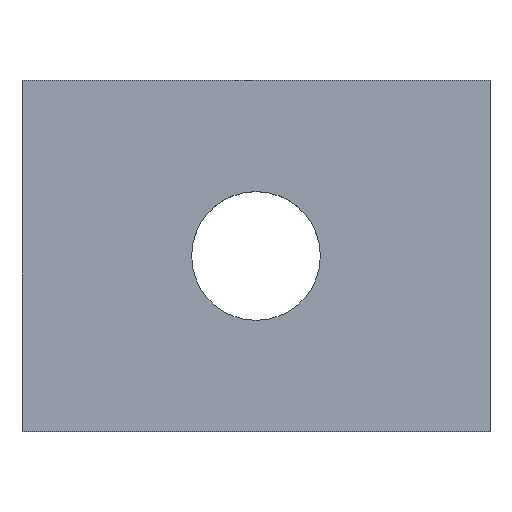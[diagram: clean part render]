
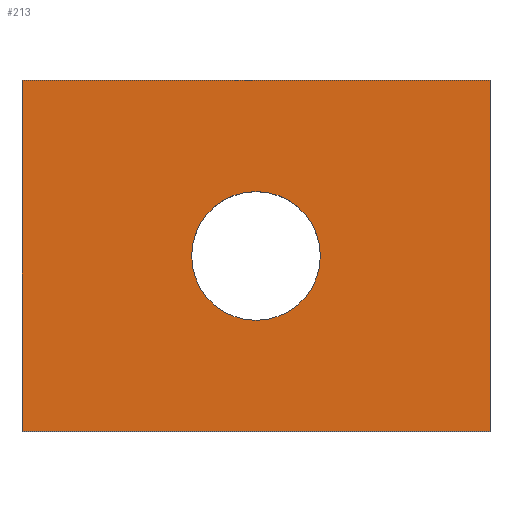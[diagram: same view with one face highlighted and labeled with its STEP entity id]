
A CAD part, top view. The second image highlights one B-rep face of the part: STEP entity #213.
In plain terms, the highlighted planar face has unit normal (0, 0, 1).
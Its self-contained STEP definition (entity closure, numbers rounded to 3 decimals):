
#24 = VERTEX_POINT('',#25);
#25 = CARTESIAN_POINT('',(-20.,-15.,2.5));
#32 = PLANE('',#33);
#33 = AXIS2_PLACEMENT_3D('',#34,#35,#36);
#34 = CARTESIAN_POINT('',(-20.,-15.,-2.5));
#35 = DIRECTION('',(1.,0.,0.));
#36 = DIRECTION('',(0.,0.,1.));
#44 = PLANE('',#45);
#45 = AXIS2_PLACEMENT_3D('',#46,#47,#48);
#46 = CARTESIAN_POINT('',(-20.,-15.,-2.5));
#47 = DIRECTION('',(0.,1.,0.));
#48 = DIRECTION('',(0.,0.,1.));
#85 = VERTEX_POINT('',#86);
#86 = CARTESIAN_POINT('',(-20.,15.,2.5));
#100 = PLANE('',#101);
#101 = AXIS2_PLACEMENT_3D('',#102,#103,#104);
#102 = CARTESIAN_POINT('',(-20.,15.,-2.5));
#103 = DIRECTION('',(0.,1.,0.));
#104 = DIRECTION('',(0.,0.,1.));
#112 = EDGE_CURVE('',#24,#85,#113,.T.);
#113 = SURFACE_CURVE('',#114,(#118,#125),.PCURVE_S1.);
#114 = LINE('',#115,#116);
#115 = CARTESIAN_POINT('',(-20.,-15.,2.5));
#116 = VECTOR('',#117,1.);
#117 = DIRECTION('',(0.,1.,0.));
#118 = PCURVE('',#32,#119);
#119 = DEFINITIONAL_REPRESENTATION('',(#120),#124);
#120 = LINE('',#121,#122);
#121 = CARTESIAN_POINT('',(5.,0.));
#122 = VECTOR('',#123,1.);
#123 = DIRECTION('',(0.,-1.));
#124 = ( GEOMETRIC_REPRESENTATION_CONTEXT(2) 
PARAMETRIC_REPRESENTATION_CONTEXT() REPRESENTATION_CONTEXT('2D SPACE',''
  ) );
#125 = PCURVE('',#126,#131);
#126 = PLANE('',#127);
#127 = AXIS2_PLACEMENT_3D('',#128,#129,#130);
#128 = CARTESIAN_POINT('',(-20.,-15.,2.5));
#129 = DIRECTION('',(0.,0.,1.));
#130 = DIRECTION('',(1.,0.,0.));
#131 = DEFINITIONAL_REPRESENTATION('',(#132),#136);
#132 = LINE('',#133,#134);
#133 = CARTESIAN_POINT('',(0.,0.));
#134 = VECTOR('',#135,1.);
#135 = DIRECTION('',(0.,1.));
#136 = ( GEOMETRIC_REPRESENTATION_CONTEXT(2) 
PARAMETRIC_REPRESENTATION_CONTEXT() REPRESENTATION_CONTEXT('2D SPACE',''
  ) );
#165 = EDGE_CURVE('',#24,#166,#168,.T.);
#166 = VERTEX_POINT('',#167);
#167 = CARTESIAN_POINT('',(20.,-15.,2.5));
#168 = SURFACE_CURVE('',#169,(#173,#180),.PCURVE_S1.);
#169 = LINE('',#170,#171);
#170 = CARTESIAN_POINT('',(-20.,-15.,2.5));
#171 = VECTOR('',#172,1.);
#172 = DIRECTION('',(1.,0.,0.));
#173 = PCURVE('',#44,#174);
#174 = DEFINITIONAL_REPRESENTATION('',(#175),#179);
#175 = LINE('',#176,#177);
#176 = CARTESIAN_POINT('',(5.,0.));
#177 = VECTOR('',#178,1.);
#178 = DIRECTION('',(0.,1.));
#179 = ( GEOMETRIC_REPRESENTATION_CONTEXT(2) 
PARAMETRIC_REPRESENTATION_CONTEXT() REPRESENTATION_CONTEXT('2D SPACE',''
  ) );
#180 = PCURVE('',#126,#181);
#181 = DEFINITIONAL_REPRESENTATION('',(#182),#186);
#182 = LINE('',#183,#184);
#183 = CARTESIAN_POINT('',(0.,0.));
#184 = VECTOR('',#185,1.);
#185 = DIRECTION('',(1.,0.));
#186 = ( GEOMETRIC_REPRESENTATION_CONTEXT(2) 
PARAMETRIC_REPRESENTATION_CONTEXT() REPRESENTATION_CONTEXT('2D SPACE',''
  ) );
#202 = PLANE('',#203);
#203 = AXIS2_PLACEMENT_3D('',#204,#205,#206);
#204 = CARTESIAN_POINT('',(20.,-15.,-2.5));
#205 = DIRECTION('',(1.,0.,0.));
#206 = DIRECTION('',(0.,0.,1.));
#213 = ADVANCED_FACE('',(#214,#262),#126,.T.);
#214 = FACE_BOUND('',#215,.T.);
#215 = EDGE_LOOP('',(#216,#217,#218,#241));
#216 = ORIENTED_EDGE('',*,*,#112,.F.);
#217 = ORIENTED_EDGE('',*,*,#165,.T.);
#218 = ORIENTED_EDGE('',*,*,#219,.T.);
#219 = EDGE_CURVE('',#166,#220,#222,.T.);
#220 = VERTEX_POINT('',#221);
#221 = CARTESIAN_POINT('',(20.,15.,2.5));
#222 = SURFACE_CURVE('',#223,(#227,#234),.PCURVE_S1.);
#223 = LINE('',#224,#225);
#224 = CARTESIAN_POINT('',(20.,-15.,2.5));
#225 = VECTOR('',#226,1.);
#226 = DIRECTION('',(0.,1.,0.));
#227 = PCURVE('',#126,#228);
#228 = DEFINITIONAL_REPRESENTATION('',(#229),#233);
#229 = LINE('',#230,#231);
#230 = CARTESIAN_POINT('',(40.,0.));
#231 = VECTOR('',#232,1.);
#232 = DIRECTION('',(0.,1.));
#233 = ( GEOMETRIC_REPRESENTATION_CONTEXT(2) 
PARAMETRIC_REPRESENTATION_CONTEXT() REPRESENTATION_CONTEXT('2D SPACE',''
  ) );
#234 = PCURVE('',#202,#235);
#235 = DEFINITIONAL_REPRESENTATION('',(#236),#240);
#236 = LINE('',#237,#238);
#237 = CARTESIAN_POINT('',(5.,0.));
#238 = VECTOR('',#239,1.);
#239 = DIRECTION('',(0.,-1.));
#240 = ( GEOMETRIC_REPRESENTATION_CONTEXT(2) 
PARAMETRIC_REPRESENTATION_CONTEXT() REPRESENTATION_CONTEXT('2D SPACE',''
  ) );
#241 = ORIENTED_EDGE('',*,*,#242,.F.);
#242 = EDGE_CURVE('',#85,#220,#243,.T.);
#243 = SURFACE_CURVE('',#244,(#248,#255),.PCURVE_S1.);
#244 = LINE('',#245,#246);
#245 = CARTESIAN_POINT('',(-20.,15.,2.5));
#246 = VECTOR('',#247,1.);
#247 = DIRECTION('',(1.,0.,0.));
#248 = PCURVE('',#126,#249);
#249 = DEFINITIONAL_REPRESENTATION('',(#250),#254);
#250 = LINE('',#251,#252);
#251 = CARTESIAN_POINT('',(0.,30.));
#252 = VECTOR('',#253,1.);
#253 = DIRECTION('',(1.,0.));
#254 = ( GEOMETRIC_REPRESENTATION_CONTEXT(2) 
PARAMETRIC_REPRESENTATION_CONTEXT() REPRESENTATION_CONTEXT('2D SPACE',''
  ) );
#255 = PCURVE('',#100,#256);
#256 = DEFINITIONAL_REPRESENTATION('',(#257),#261);
#257 = LINE('',#258,#259);
#258 = CARTESIAN_POINT('',(5.,0.));
#259 = VECTOR('',#260,1.);
#260 = DIRECTION('',(0.,1.));
#261 = ( GEOMETRIC_REPRESENTATION_CONTEXT(2) 
PARAMETRIC_REPRESENTATION_CONTEXT() REPRESENTATION_CONTEXT('2D SPACE',''
  ) );
#262 = FACE_BOUND('',#263,.T.);
#263 = EDGE_LOOP('',(#264));
#264 = ORIENTED_EDGE('',*,*,#265,.T.);
#265 = EDGE_CURVE('',#266,#266,#268,.T.);
#266 = VERTEX_POINT('',#267);
#267 = CARTESIAN_POINT('',(-5.5,0.,2.5));
#268 = SURFACE_CURVE('',#269,(#274,#285),.PCURVE_S1.);
#269 = CIRCLE('',#270,5.5);
#270 = AXIS2_PLACEMENT_3D('',#271,#272,#273);
#271 = CARTESIAN_POINT('',(0.,0.,2.5));
#272 = DIRECTION('',(0.,0.,-1.));
#273 = DIRECTION('',(-1.,0.,0.));
#274 = PCURVE('',#126,#275);
#275 = DEFINITIONAL_REPRESENTATION('',(#276),#284);
#276 = ( BOUNDED_CURVE() B_SPLINE_CURVE(2,(#277,#278,#279,#280,#281,#282
,#283),.UNSPECIFIED.,.T.,.F.) B_SPLINE_CURVE_WITH_KNOTS((1,2,2,2,2,1),(
    -2.094,0.,2.094,4.189,6.283,
8.378),.UNSPECIFIED.) CURVE() GEOMETRIC_REPRESENTATION_ITEM() 
RATIONAL_B_SPLINE_CURVE((1.,0.5,1.,0.5,1.,0.5,1.)) REPRESENTATION_ITEM(
  '') );
#277 = CARTESIAN_POINT('',(14.5,15.));
#278 = CARTESIAN_POINT('',(14.5,24.526));
#279 = CARTESIAN_POINT('',(22.75,19.763));
#280 = CARTESIAN_POINT('',(31.,15.));
#281 = CARTESIAN_POINT('',(22.75,10.237));
#282 = CARTESIAN_POINT('',(14.5,5.474));
#283 = CARTESIAN_POINT('',(14.5,15.));
#284 = ( GEOMETRIC_REPRESENTATION_CONTEXT(2) 
PARAMETRIC_REPRESENTATION_CONTEXT() REPRESENTATION_CONTEXT('2D SPACE',''
  ) );
#285 = PCURVE('',#286,#291);
#286 = CYLINDRICAL_SURFACE('',#287,5.5);
#287 = AXIS2_PLACEMENT_3D('',#288,#289,#290);
#288 = CARTESIAN_POINT('',(0.,0.,2.5));
#289 = DIRECTION('',(0.,0.,-1.));
#290 = DIRECTION('',(-1.,0.,0.));
#291 = DEFINITIONAL_REPRESENTATION('',(#292),#296);
#292 = LINE('',#293,#294);
#293 = CARTESIAN_POINT('',(0.,0.));
#294 = VECTOR('',#295,1.);
#295 = DIRECTION('',(1.,0.));
#296 = ( GEOMETRIC_REPRESENTATION_CONTEXT(2) 
PARAMETRIC_REPRESENTATION_CONTEXT() REPRESENTATION_CONTEXT('2D SPACE',''
  ) );
